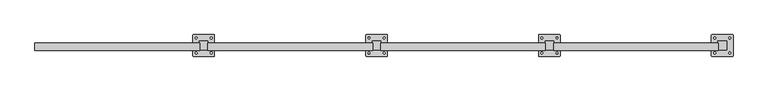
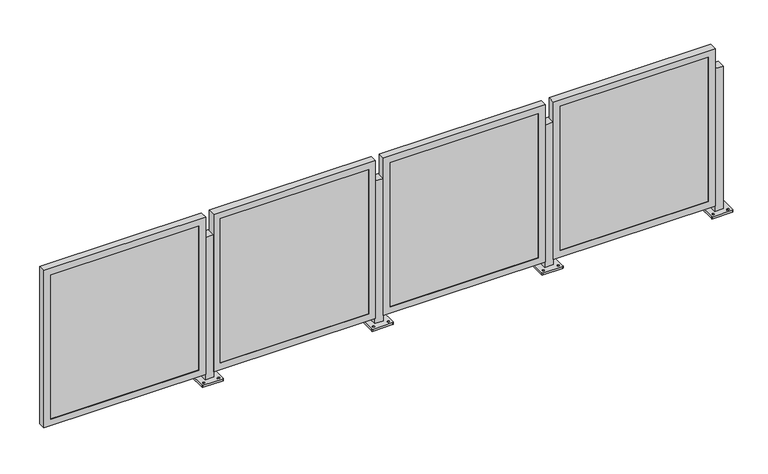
"""IFC4 building model written with IfcOpenShell, lengths in millimetres: railing geometry, Railing - Amico Architectural - Perforated Railing - Apex01."""

from ifc_helpers import new_model, si_unit, frame, origin, place, context, project, spatial, polyline, circle_curve, outline, extrude, faceted_brep, source, transform, mapped, element, save
from ifc_brep_helpers import plane_surface, cylinder_surface, revolved_surface, advanced_brep


def railing_47f15f1b(model_context):
    return source(origin(), model_context, "Body", "SolidModel", [
        advanced_brep(
        [(-18733.8818496, 7784.6872089, 914.4), (-18733.8818496, 7733.8872089, 914.4), (-18683.0818496, 7733.8872089, 914.4), (-18683.0818496, 7784.6872089, 914.4), (-18771.9818498, 7698.9622499, 0.0), (-18771.9818498, 7819.6121679, 0.0), (-18768.8068216, 7822.787196, 0.0), (-18648.1568776, 7822.787196, 0.0), (-18644.9818495, 7819.6121679, 0.0), (-18644.9818495, 7698.9622499, 0.0), (-18648.1568776, 7695.7872218, 0.0), (-18768.8068216, 7695.7872218, 0.0), (-18752.9318372, 7709.2809542, 0.0), (-18752.9318372, 7720.3934667, 0.0), (-18752.9318481, 7798.1809586, 0.0), (-18752.9318481, 7809.2934402, 0.0), (-18664.0318362, 7709.2809558, 0.0), (-18664.0318362, 7720.3934664, 0.0), (-18664.0318471, 7798.1809601, 0.0), (-18664.0318471, 7809.2934399, 0.0), (-18733.8818496, 7784.6872089, 12.7), (-18733.8818496, 7733.8872089, 12.7), (-18683.0818496, 7733.8872089, 12.7), (-18683.0818496, 7784.6872089, 12.7), (-18771.9818498, 7698.9622499, 12.7), (-18768.8068216, 7695.7872218, 12.7), (-18648.1568776, 7695.7872218, 12.7), (-18644.9818495, 7698.9622499, 12.7), (-18644.9818495, 7819.6121679, 12.7), (-18648.1568776, 7822.787196, 12.7), (-18768.8068216, 7822.787196, 12.7), (-18771.9818498, 7819.6121679, 12.7), (-18752.9318372, 7709.2809542, 12.7), (-18752.9318372, 7720.3934667, 12.7), (-18752.9318481, 7798.1809586, 12.7), (-18752.9318481, 7809.2934402, 12.7), (-18664.0318362, 7709.2809558, 12.7), (-18664.0318362, 7720.3934664, 12.7), (-18664.0318471, 7798.1809601, 12.7), (-18664.0318471, 7809.2934399, 12.7)],
        [
            (0, 1),
            (1, 2),
            (2, 3),
            (3, 0),
            (4, 5),
            (5, 6, circle_curve(frame((-18768.8068216, 7819.6121679, 0.0), z_axis=(0.0, 0.0, -1.0), x_axis=(0.0, 1.0, 0.0)), 3.1750282)),
            (6, 7),
            (7, 8, circle_curve(frame((-18648.1568776, 7819.6121679, 0.0), z_axis=(0.0, 0.0, -1.0), x_axis=(0.0, 1.0, 0.0)), 3.1750282)),
            (8, 9),
            (9, 10, circle_curve(frame((-18648.1568776, 7698.9622499, 0.0), z_axis=(0.0, 0.0, -1.0), x_axis=(0.0, 1.0, 0.0)), 3.1750282)),
            (10, 11),
            (11, 4, circle_curve(frame((-18768.8068216, 7698.9622499, 0.0), z_axis=(0.0, 0.0, -1.0), x_axis=(0.0, 1.0, 0.0)), 3.1750282)),
            (12, 13, circle_curve(frame((-18752.9318372, 7714.8372105, 0.0), z_axis=(0.0, 0.0, 1.0), x_axis=(0.0, 1.0, 0.0)), 5.5562562)),
            (13, 12, circle_curve(frame((-18752.9318372, 7714.8372105, 0.0), z_axis=(0.0, 0.0, 1.0), x_axis=(0.0, 1.0, 0.0)), 5.5562562)),
            (14, 15, circle_curve(frame((-18752.9318481, 7803.7371994, 0.0), z_axis=(0.0, 0.0, 1.0), x_axis=(0.0, 1.0, 0.0)), 5.5562408)),
            (15, 14, circle_curve(frame((-18752.9318481, 7803.7371994, 0.0), z_axis=(0.0, 0.0, 1.0), x_axis=(0.0, 1.0, 0.0)), 5.5562408)),
            (16, 17, circle_curve(frame((-18664.0318362, 7714.8372111, 0.0), z_axis=(0.0, 0.0, 1.0), x_axis=(0.0, 1.0, 0.0)), 5.5562553)),
            (17, 16, circle_curve(frame((-18664.0318362, 7714.8372111, 0.0), z_axis=(0.0, 0.0, 1.0), x_axis=(0.0, 1.0, 0.0)), 5.5562553)),
            (18, 19, circle_curve(frame((-18664.0318471, 7803.7372, 0.0), z_axis=(0.0, 0.0, 1.0), x_axis=(0.0, 1.0, 0.0)), 5.5562399)),
            (19, 18, circle_curve(frame((-18664.0318471, 7803.7372, 0.0), z_axis=(0.0, 0.0, 1.0), x_axis=(0.0, 1.0, 0.0)), 5.5562399)),
            (0, 20),
            (20, 21),
            (21, 1),
            (21, 22),
            (22, 2),
            (22, 23),
            (23, 3),
            (23, 20),
            (24, 25, circle_curve(frame((-18768.8068216, 7698.9622499, 12.7), z_axis=(0.0, 0.0, 1.0), x_axis=(0.0, 1.0, 0.0)), 3.1750282)),
            (25, 26),
            (26, 27, circle_curve(frame((-18648.1568776, 7698.9622499, 12.7), z_axis=(0.0, 0.0, 1.0), x_axis=(0.0, 1.0, 0.0)), 3.1750282)),
            (27, 28),
            (28, 29, circle_curve(frame((-18648.1568776, 7819.6121679, 12.7), z_axis=(0.0, 0.0, 1.0), x_axis=(0.0, 1.0, 0.0)), 3.1750282)),
            (29, 30),
            (30, 31, circle_curve(frame((-18768.8068216, 7819.6121679, 12.7), z_axis=(0.0, 0.0, 1.0), x_axis=(0.0, 1.0, 0.0)), 3.1750282)),
            (31, 24),
            (32, 33, circle_curve(frame((-18752.9318372, 7714.8372105, 12.7), z_axis=(0.0, 0.0, -1.0), x_axis=(0.0, 1.0, 0.0)), 5.5562562)),
            (33, 32, circle_curve(frame((-18752.9318372, 7714.8372105, 12.7), z_axis=(0.0, 0.0, -1.0), x_axis=(0.0, 1.0, 0.0)), 5.5562562)),
            (34, 35, circle_curve(frame((-18752.9318481, 7803.7371994, 12.7), z_axis=(0.0, 0.0, -1.0), x_axis=(0.0, 1.0, 0.0)), 5.5562408)),
            (35, 34, circle_curve(frame((-18752.9318481, 7803.7371994, 12.7), z_axis=(0.0, 0.0, -1.0), x_axis=(0.0, 1.0, 0.0)), 5.5562408)),
            (36, 37, circle_curve(frame((-18664.0318362, 7714.8372111, 12.7), z_axis=(0.0, 0.0, -1.0), x_axis=(0.0, 1.0, 0.0)), 5.5562553)),
            (37, 36, circle_curve(frame((-18664.0318362, 7714.8372111, 12.7), z_axis=(0.0, 0.0, -1.0), x_axis=(0.0, 1.0, 0.0)), 5.5562553)),
            (38, 39, circle_curve(frame((-18664.0318471, 7803.7372, 12.7), z_axis=(0.0, 0.0, -1.0), x_axis=(0.0, 1.0, 0.0)), 5.5562399)),
            (39, 38, circle_curve(frame((-18664.0318471, 7803.7372, 12.7), z_axis=(0.0, 0.0, -1.0), x_axis=(0.0, 1.0, 0.0)), 5.5562399)),
            (24, 4),
            (11, 25),
            (10, 26),
            (9, 27),
            (8, 28),
            (7, 29),
            (6, 30),
            (5, 31),
            (32, 12),
            (13, 33),
            (34, 14),
            (15, 35),
            (36, 16),
            (17, 37),
            (38, 18),
            (19, 39),
        ],
        [
            plane_surface(frame((-18733.8818496, 7733.8872089, 914.4), z_axis=(0.0, 0.0, 1.0), x_axis=(0.0, -1.0, 0.0))),
            plane_surface(frame((-18733.8818496, 7733.8872089, 0.0), z_axis=(0.0, 0.0, -1.0), x_axis=(0.0, 1.0, 0.0))),
            plane_surface(frame((-18733.8818496, 7784.6872089, 914.4), z_axis=(-1.0, 0.0, 0.0), x_axis=(0.0, 0.0, -1.0))),
            plane_surface(frame((-18733.8818496, 7733.8872089, 914.4), z_axis=(0.0, -1.0, 0.0), x_axis=(0.0, 0.0, -1.0))),
            plane_surface(frame((-18683.0818496, 7733.8872089, 914.4), z_axis=(1.0, 0.0, 0.0), x_axis=(0.0, 0.0, -1.0))),
            plane_surface(frame((-18683.0818496, 7784.6872089, 914.4), z_axis=(0.0, 1.0, 0.0), x_axis=(0.0, 0.0, -1.0))),
            plane_surface(frame((-18768.8068216, 7702.1372781, 12.7), z_axis=(0.0, 0.0, 1.0), x_axis=(-1.0, 0.0, 0.0))),
            cylinder_surface(frame((-18768.8068216, 7698.9622499, 0.0), z_axis=(0.0, 0.0, 1.0), x_axis=(0.0, 1.0, 0.0)), 3.1750282),
            plane_surface(frame((-18768.8068216, 7695.7872218, 12.7), z_axis=(1.1945386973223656e-12, -1.0, 0.0), x_axis=(0.0, 0.0, -1.0))),
            cylinder_surface(frame((-18648.1568776, 7698.9622499, 0.0), z_axis=(0.0, 0.0, 1.0), x_axis=(0.0, 1.0, 0.0)), 3.1750282),
            plane_surface(frame((-18644.9818495, 7698.9622499, 12.7), z_axis=(1.0, 0.0, 0.0), x_axis=(0.0, 0.0, -1.0))),
            cylinder_surface(frame((-18648.1568776, 7819.6121679, 0.0), z_axis=(0.0, 0.0, 1.0), x_axis=(0.0, 1.0, 0.0)), 3.1750282),
            plane_surface(frame((-18648.1568776, 7822.787196, 12.7), z_axis=(-1.1946088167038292e-12, 1.0, 0.0), x_axis=(0.0, 0.0, -1.0))),
            cylinder_surface(frame((-18768.8068216, 7819.6121679, 0.0), z_axis=(0.0, 0.0, 1.0), x_axis=(0.0, 1.0, 0.0)), 3.1750282),
            plane_surface(frame((-18771.9818498, 7819.6121679, 12.7), z_axis=(-1.0, 0.0, 0.0), x_axis=(0.0, 0.0, -1.0))),
            revolved_surface(polyline([(-18752.9318372, 7720.393466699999, 0.0), (-18752.9318372, 7720.393466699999, 12.7)]), (-18752.9318372, 7714.8372105, 0.0), (0.0, 0.0, -1.0)),
            revolved_surface(polyline([(-18752.9318481, 7809.293440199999, 0.0), (-18752.9318481, 7809.293440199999, 12.7)]), (-18752.9318481, 7803.7371994, 0.0), (0.0, 0.0, -1.0)),
            revolved_surface(polyline([(-18664.0318362, 7720.3934664, 0.0), (-18664.0318362, 7720.3934664, 12.7)]), (-18664.0318362, 7714.8372111, 0.0), (0.0, 0.0, -1.0)),
            revolved_surface(polyline([(-18664.0318471, 7809.2934399, 0.0), (-18664.0318471, 7809.2934399, 12.7)]), (-18664.0318471, 7803.7372, 0.0), (0.0, 0.0, -1.0)),
        ],
        [
            (0, [[1, 2, 3, 4]]),
            (1, [[5, 6, 7, 8, 9, 10, 11, 12], [13, 14], [15, 16], [17, 18], [19, 20]]),
            (2, [[-1, 21, 22, 23]]),
            (3, [[-2, -23, 24, 25]]),
            (4, [[-3, -25, 26, 27]]),
            (5, [[-4, -27, 28, -21]]),
            (6, [[29, 30, 31, 32, 33, 34, 35, 36], [-22, -28, -26, -24], [37, 38], [39, 40], [41, 42], [43, 44]]),
            (7, [[-29, 45, -12, 46]]),
            (8, [[-30, -46, -11, 47]]),
            (9, [[-31, -47, -10, 48]]),
            (10, [[-32, -48, -9, 49]]),
            (11, [[-33, -49, -8, 50]]),
            (12, [[-34, -50, -7, 51]]),
            (13, [[-35, -51, -6, 52]]),
            (14, [[-36, -52, -5, -45]]),
            (15, [[-37, 53, -14, 54]]),
            (15, [[-38, -54, -13, -53]]),
            (16, [[-39, 55, -16, 56]]),
            (16, [[-40, -56, -15, -55]]),
            (17, [[-41, 57, -18, 58]]),
            (17, [[-42, -58, -17, -57]]),
            (18, [[-43, 59, -20, 60]]),
            (18, [[-44, -60, -19, -59]]),
        ],
    ),
        faceted_brep([(-19700.286303, 7731.1440089, 47.625), (-18731.911303, 7731.1440089, 47.625), (-18731.911303, 7731.1440089, 1044.575), (-19700.286303, 7731.1440089, 1044.575), (-19659.011303, 7731.1440089, 1003.3), (-18773.186303, 7731.1440089, 1003.3), (-18773.186303, 7731.1440089, 88.9), (-19659.011303, 7731.1440089, 88.9), (-19659.011303, 7733.8872089, 1003.3), (-19659.011303, 7733.8872089, 88.9), (-19700.286303, 7775.0173054, 1044.575), (-19700.286303, 7775.0173054, 47.625), (-19697.111303, 7775.0173054, 1041.4), (-19697.111303, 7733.8872089, 1041.4), (-19697.111303, 7733.8872089, 50.8), (-19697.111303, 7775.0173054, 50.8), (-18773.186303, 7733.8872089, 88.9), (-18731.911303, 7775.0173054, 47.625), (-18735.086303, 7733.8872089, 50.8), (-18735.086303, 7775.0173054, 50.8), (-18773.186303, 7733.8872089, 1003.3), (-18731.911303, 7775.0173054, 1044.575), (-18735.086303, 7733.8872089, 1041.4), (-18735.086303, 7775.0173054, 1041.4)], [[[0, 1, 2, 3], [4, 5, 6, 7]], [[8, 4, 7, 9]], [[3, 10, 11, 0]], [[12, 13, 14, 15]], [[9, 7, 6, 16]], [[0, 11, 17, 1]], [[15, 14, 18, 19]], [[16, 6, 5, 20]], [[1, 17, 21, 2]], [[19, 18, 22, 23]], [[20, 5, 4, 8]], [[10, 21, 17, 11], [15, 19, 23, 12]], [[2, 21, 10, 3]], [[13, 22, 18, 14], [9, 16, 20, 8]], [[23, 22, 13, 12]]]),
        extrude(outline(polyline([(-19697.111303, 7743.4122089), (-18735.086303, 7743.4122089), (-18735.086303, 7733.8872089), (-19697.111303, 7733.8872089), (-19697.111303, 7743.4122089)])), frame((0.0, 0.0, 50.8), z_axis=(0.0, 0.0, 1.0), x_axis=(1.0, 0.0, 0.0)), (0.0, 0.0, 1.0), 990.6),
        advanced_brep(
        [(-19749.8818496, 7784.6872089, 914.4), (-19749.8818496, 7733.8872089, 914.4), (-19699.0818496, 7733.8872089, 914.4), (-19699.0818496, 7784.6872089, 914.4), (-19787.9818498, 7698.9622499, 0.0), (-19787.9818498, 7819.6121679, 0.0), (-19784.8068216, 7822.787196, 0.0), (-19664.1568776, 7822.787196, 0.0), (-19660.9818495, 7819.6121679, 0.0), (-19660.9818495, 7698.9622499, 0.0), (-19664.1568776, 7695.7872218, 0.0), (-19784.8068216, 7695.7872218, 0.0), (-19768.9318372, 7709.2809542, 0.0), (-19768.9318372, 7720.3934667, 0.0), (-19768.9318481, 7798.1809586, 0.0), (-19768.9318481, 7809.2934402, 0.0), (-19680.0318362, 7709.2809558, 0.0), (-19680.0318362, 7720.3934664, 0.0), (-19680.0318471, 7798.1809601, 0.0), (-19680.0318471, 7809.2934399, 0.0), (-19749.8818496, 7784.6872089, 12.7), (-19749.8818496, 7733.8872089, 12.7), (-19699.0818496, 7733.8872089, 12.7), (-19699.0818496, 7784.6872089, 12.7), (-19787.9818498, 7698.9622499, 12.7), (-19784.8068216, 7695.7872218, 12.7), (-19664.1568776, 7695.7872218, 12.7), (-19660.9818495, 7698.9622499, 12.7), (-19660.9818495, 7819.6121679, 12.7), (-19664.1568776, 7822.787196, 12.7), (-19784.8068216, 7822.787196, 12.7), (-19787.9818498, 7819.6121679, 12.7), (-19768.9318372, 7709.2809542, 12.7), (-19768.9318372, 7720.3934667, 12.7), (-19768.9318481, 7798.1809586, 12.7), (-19768.9318481, 7809.2934402, 12.7), (-19680.0318362, 7709.2809558, 12.7), (-19680.0318362, 7720.3934664, 12.7), (-19680.0318471, 7798.1809601, 12.7), (-19680.0318471, 7809.2934399, 12.7)],
        [
            (0, 1),
            (1, 2),
            (2, 3),
            (3, 0),
            (4, 5),
            (5, 6, circle_curve(frame((-19784.8068216, 7819.6121679, 0.0), z_axis=(0.0, 0.0, -1.0), x_axis=(0.0, 1.0, 0.0)), 3.1750282)),
            (6, 7),
            (7, 8, circle_curve(frame((-19664.1568776, 7819.6121679, 0.0), z_axis=(0.0, 0.0, -1.0), x_axis=(0.0, 1.0, 0.0)), 3.1750282)),
            (8, 9),
            (9, 10, circle_curve(frame((-19664.1568776, 7698.9622499, 0.0), z_axis=(0.0, 0.0, -1.0), x_axis=(0.0, 1.0, 0.0)), 3.1750282)),
            (10, 11),
            (11, 4, circle_curve(frame((-19784.8068216, 7698.9622499, 0.0), z_axis=(0.0, 0.0, -1.0), x_axis=(0.0, 1.0, 0.0)), 3.1750282)),
            (12, 13, circle_curve(frame((-19768.9318372, 7714.8372105, 0.0), z_axis=(0.0, 0.0, 1.0), x_axis=(0.0, 1.0, 0.0)), 5.5562562)),
            (13, 12, circle_curve(frame((-19768.9318372, 7714.8372105, 0.0), z_axis=(0.0, 0.0, 1.0), x_axis=(0.0, 1.0, 0.0)), 5.5562562)),
            (14, 15, circle_curve(frame((-19768.9318481, 7803.7371994, 0.0), z_axis=(0.0, 0.0, 1.0), x_axis=(0.0, 1.0, 0.0)), 5.5562408)),
            (15, 14, circle_curve(frame((-19768.9318481, 7803.7371994, 0.0), z_axis=(0.0, 0.0, 1.0), x_axis=(0.0, 1.0, 0.0)), 5.5562408)),
            (16, 17, circle_curve(frame((-19680.0318362, 7714.8372111, 0.0), z_axis=(0.0, 0.0, 1.0), x_axis=(0.0, 1.0, 0.0)), 5.5562553)),
            (17, 16, circle_curve(frame((-19680.0318362, 7714.8372111, 0.0), z_axis=(0.0, 0.0, 1.0), x_axis=(0.0, 1.0, 0.0)), 5.5562553)),
            (18, 19, circle_curve(frame((-19680.0318471, 7803.7372, 0.0), z_axis=(0.0, 0.0, 1.0), x_axis=(0.0, 1.0, 0.0)), 5.5562399)),
            (19, 18, circle_curve(frame((-19680.0318471, 7803.7372, 0.0), z_axis=(0.0, 0.0, 1.0), x_axis=(0.0, 1.0, 0.0)), 5.5562399)),
            (0, 20),
            (20, 21),
            (21, 1),
            (21, 22),
            (22, 2),
            (22, 23),
            (23, 3),
            (23, 20),
            (24, 25, circle_curve(frame((-19784.8068216, 7698.9622499, 12.7), z_axis=(0.0, 0.0, 1.0), x_axis=(0.0, 1.0, 0.0)), 3.1750282)),
            (25, 26),
            (26, 27, circle_curve(frame((-19664.1568776, 7698.9622499, 12.7), z_axis=(0.0, 0.0, 1.0), x_axis=(0.0, 1.0, 0.0)), 3.1750282)),
            (27, 28),
            (28, 29, circle_curve(frame((-19664.1568776, 7819.6121679, 12.7), z_axis=(0.0, 0.0, 1.0), x_axis=(0.0, 1.0, 0.0)), 3.1750282)),
            (29, 30),
            (30, 31, circle_curve(frame((-19784.8068216, 7819.6121679, 12.7), z_axis=(0.0, 0.0, 1.0), x_axis=(0.0, 1.0, 0.0)), 3.1750282)),
            (31, 24),
            (32, 33, circle_curve(frame((-19768.9318372, 7714.8372105, 12.7), z_axis=(0.0, 0.0, -1.0), x_axis=(0.0, 1.0, 0.0)), 5.5562562)),
            (33, 32, circle_curve(frame((-19768.9318372, 7714.8372105, 12.7), z_axis=(0.0, 0.0, -1.0), x_axis=(0.0, 1.0, 0.0)), 5.5562562)),
            (34, 35, circle_curve(frame((-19768.9318481, 7803.7371994, 12.7), z_axis=(0.0, 0.0, -1.0), x_axis=(0.0, 1.0, 0.0)), 5.5562408)),
            (35, 34, circle_curve(frame((-19768.9318481, 7803.7371994, 12.7), z_axis=(0.0, 0.0, -1.0), x_axis=(0.0, 1.0, 0.0)), 5.5562408)),
            (36, 37, circle_curve(frame((-19680.0318362, 7714.8372111, 12.7), z_axis=(0.0, 0.0, -1.0), x_axis=(0.0, 1.0, 0.0)), 5.5562553)),
            (37, 36, circle_curve(frame((-19680.0318362, 7714.8372111, 12.7), z_axis=(0.0, 0.0, -1.0), x_axis=(0.0, 1.0, 0.0)), 5.5562553)),
            (38, 39, circle_curve(frame((-19680.0318471, 7803.7372, 12.7), z_axis=(0.0, 0.0, -1.0), x_axis=(0.0, 1.0, 0.0)), 5.5562399)),
            (39, 38, circle_curve(frame((-19680.0318471, 7803.7372, 12.7), z_axis=(0.0, 0.0, -1.0), x_axis=(0.0, 1.0, 0.0)), 5.5562399)),
            (24, 4),
            (11, 25),
            (10, 26),
            (9, 27),
            (8, 28),
            (7, 29),
            (6, 30),
            (5, 31),
            (32, 12),
            (13, 33),
            (34, 14),
            (15, 35),
            (36, 16),
            (17, 37),
            (38, 18),
            (19, 39),
        ],
        [
            plane_surface(frame((-19749.8818496, 7733.8872089, 914.4), z_axis=(0.0, 0.0, 1.0), x_axis=(0.0, -1.0, 0.0))),
            plane_surface(frame((-19749.8818496, 7733.8872089, 0.0), z_axis=(0.0, 0.0, -1.0), x_axis=(0.0, 1.0, 0.0))),
            plane_surface(frame((-19749.8818496, 7784.6872089, 914.4), z_axis=(-1.0, 0.0, 0.0), x_axis=(0.0, 0.0, -1.0))),
            plane_surface(frame((-19749.8818496, 7733.8872089, 914.4), z_axis=(0.0, -1.0, 0.0), x_axis=(0.0, 0.0, -1.0))),
            plane_surface(frame((-19699.0818496, 7733.8872089, 914.4), z_axis=(1.0, 0.0, 0.0), x_axis=(0.0, 0.0, -1.0))),
            plane_surface(frame((-19699.0818496, 7784.6872089, 914.4), z_axis=(0.0, 1.0, 0.0), x_axis=(0.0, 0.0, -1.0))),
            plane_surface(frame((-19784.8068216, 7702.1372781, 12.7), z_axis=(0.0, 0.0, 1.0), x_axis=(-1.0, 0.0, 0.0))),
            cylinder_surface(frame((-19784.8068216, 7698.9622499, 0.0), z_axis=(0.0, 0.0, 1.0), x_axis=(0.0, 1.0, 0.0)), 3.1750282),
            plane_surface(frame((-19784.8068216, 7695.7872218, 12.7), z_axis=(1.1945386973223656e-12, -1.0, 0.0), x_axis=(0.0, 0.0, -1.0))),
            cylinder_surface(frame((-19664.1568776, 7698.9622499, 0.0), z_axis=(0.0, 0.0, 1.0), x_axis=(0.0, 1.0, 0.0)), 3.1750282),
            plane_surface(frame((-19660.9818495, 7698.9622499, 12.7), z_axis=(1.0, 0.0, 0.0), x_axis=(0.0, 0.0, -1.0))),
            cylinder_surface(frame((-19664.1568776, 7819.6121679, 0.0), z_axis=(0.0, 0.0, 1.0), x_axis=(0.0, 1.0, 0.0)), 3.1750282),
            plane_surface(frame((-19664.1568776, 7822.787196, 12.7), z_axis=(-1.1946088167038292e-12, 1.0, 0.0), x_axis=(0.0, 0.0, -1.0))),
            cylinder_surface(frame((-19784.8068216, 7819.6121679, 0.0), z_axis=(0.0, 0.0, 1.0), x_axis=(0.0, 1.0, 0.0)), 3.1750282),
            plane_surface(frame((-19787.9818498, 7819.6121679, 12.7), z_axis=(-1.0, 0.0, 0.0), x_axis=(0.0, 0.0, -1.0))),
            revolved_surface(polyline([(-19768.9318372, 7720.393466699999, 0.0), (-19768.9318372, 7720.393466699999, 12.7)]), (-19768.9318372, 7714.8372105, 0.0), (0.0, 0.0, -1.0)),
            revolved_surface(polyline([(-19768.9318481, 7809.293440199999, 0.0), (-19768.9318481, 7809.293440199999, 12.7)]), (-19768.9318481, 7803.7371994, 0.0), (0.0, 0.0, -1.0)),
            revolved_surface(polyline([(-19680.0318362, 7720.3934664, 0.0), (-19680.0318362, 7720.3934664, 12.7)]), (-19680.0318362, 7714.8372111, 0.0), (0.0, 0.0, -1.0)),
            revolved_surface(polyline([(-19680.0318471, 7809.2934399, 0.0), (-19680.0318471, 7809.2934399, 12.7)]), (-19680.0318471, 7803.7372, 0.0), (0.0, 0.0, -1.0)),
        ],
        [
            (0, [[1, 2, 3, 4]]),
            (1, [[5, 6, 7, 8, 9, 10, 11, 12], [13, 14], [15, 16], [17, 18], [19, 20]]),
            (2, [[-1, 21, 22, 23]]),
            (3, [[-2, -23, 24, 25]]),
            (4, [[-3, -25, 26, 27]]),
            (5, [[-4, -27, 28, -21]]),
            (6, [[29, 30, 31, 32, 33, 34, 35, 36], [-22, -28, -26, -24], [37, 38], [39, 40], [41, 42], [43, 44]]),
            (7, [[-29, 45, -12, 46]]),
            (8, [[-30, -46, -11, 47]]),
            (9, [[-31, -47, -10, 48]]),
            (10, [[-32, -48, -9, 49]]),
            (11, [[-33, -49, -8, 50]]),
            (12, [[-34, -50, -7, 51]]),
            (13, [[-35, -51, -6, 52]]),
            (14, [[-36, -52, -5, -45]]),
            (15, [[-37, 53, -14, 54]]),
            (15, [[-38, -54, -13, -53]]),
            (16, [[-39, 55, -16, 56]]),
            (16, [[-40, -56, -15, -55]]),
            (17, [[-41, 57, -18, 58]]),
            (17, [[-42, -58, -17, -57]]),
            (18, [[-43, 59, -20, 60]]),
            (18, [[-44, -60, -19, -59]]),
        ],
    ),
        faceted_brep([(-20716.286303, 7731.1440089, 47.625), (-19747.911303, 7731.1440089, 47.625), (-19747.911303, 7731.1440089, 1044.575), (-20716.286303, 7731.1440089, 1044.575), (-20675.011303, 7731.1440089, 1003.3), (-19789.186303, 7731.1440089, 1003.3), (-19789.186303, 7731.1440089, 88.9), (-20675.011303, 7731.1440089, 88.9), (-20675.011303, 7733.8872089, 1003.3), (-20675.011303, 7733.8872089, 88.9), (-20716.286303, 7775.0173054, 1044.575), (-20716.286303, 7775.0173054, 47.625), (-20713.111303, 7775.0173054, 1041.4), (-20713.111303, 7733.8872089, 1041.4), (-20713.111303, 7733.8872089, 50.8), (-20713.111303, 7775.0173054, 50.8), (-19789.186303, 7733.8872089, 88.9), (-19747.911303, 7775.0173054, 47.625), (-19751.086303, 7733.8872089, 50.8), (-19751.086303, 7775.0173054, 50.8), (-19789.186303, 7733.8872089, 1003.3), (-19747.911303, 7775.0173054, 1044.575), (-19751.086303, 7733.8872089, 1041.4), (-19751.086303, 7775.0173054, 1041.4)], [[[0, 1, 2, 3], [4, 5, 6, 7]], [[8, 4, 7, 9]], [[3, 10, 11, 0]], [[12, 13, 14, 15]], [[9, 7, 6, 16]], [[0, 11, 17, 1]], [[15, 14, 18, 19]], [[16, 6, 5, 20]], [[1, 17, 21, 2]], [[19, 18, 22, 23]], [[20, 5, 4, 8]], [[10, 21, 17, 11], [15, 19, 23, 12]], [[2, 21, 10, 3]], [[13, 22, 18, 14], [9, 16, 20, 8]], [[23, 22, 13, 12]]]),
        extrude(outline(polyline([(-20713.111303, 7743.4122089), (-19751.086303, 7743.4122089), (-19751.086303, 7733.8872089), (-20713.111303, 7733.8872089), (-20713.111303, 7743.4122089)])), frame((0.0, 0.0, 50.8), z_axis=(0.0, 0.0, 1.0), x_axis=(1.0, 0.0, 0.0)), (0.0, 0.0, 1.0), 990.6),
        advanced_brep(
        [(-20765.8818496, 7784.6872089, 914.4), (-20765.8818496, 7733.8872089, 914.4), (-20715.0818496, 7733.8872089, 914.4), (-20715.0818496, 7784.6872089, 914.4), (-20803.9818498, 7698.9622499, 0.0), (-20803.9818498, 7819.6121679, 0.0), (-20800.8068216, 7822.787196, 0.0), (-20680.1568776, 7822.787196, 0.0), (-20676.9818495, 7819.6121679, 0.0), (-20676.9818495, 7698.9622499, 0.0), (-20680.1568776, 7695.7872218, 0.0), (-20800.8068216, 7695.7872218, 0.0), (-20784.9318372, 7709.2809542, 0.0), (-20784.9318372, 7720.3934667, 0.0), (-20784.9318481, 7798.1809586, 0.0), (-20784.9318481, 7809.2934402, 0.0), (-20696.0318362, 7709.2809558, 0.0), (-20696.0318362, 7720.3934664, 0.0), (-20696.0318471, 7798.1809601, 0.0), (-20696.0318471, 7809.2934399, 0.0), (-20765.8818496, 7784.6872089, 12.7), (-20765.8818496, 7733.8872089, 12.7), (-20715.0818496, 7733.8872089, 12.7), (-20715.0818496, 7784.6872089, 12.7), (-20803.9818498, 7698.9622499, 12.7), (-20800.8068216, 7695.7872218, 12.7), (-20680.1568776, 7695.7872218, 12.7), (-20676.9818495, 7698.9622499, 12.7), (-20676.9818495, 7819.6121679, 12.7), (-20680.1568776, 7822.787196, 12.7), (-20800.8068216, 7822.787196, 12.7), (-20803.9818498, 7819.6121679, 12.7), (-20784.9318372, 7709.2809542, 12.7), (-20784.9318372, 7720.3934667, 12.7), (-20784.9318481, 7798.1809586, 12.7), (-20784.9318481, 7809.2934402, 12.7), (-20696.0318362, 7709.2809558, 12.7), (-20696.0318362, 7720.3934664, 12.7), (-20696.0318471, 7798.1809601, 12.7), (-20696.0318471, 7809.2934399, 12.7)],
        [
            (0, 1),
            (1, 2),
            (2, 3),
            (3, 0),
            (4, 5),
            (5, 6, circle_curve(frame((-20800.8068216, 7819.6121679, 0.0), z_axis=(0.0, 0.0, -1.0), x_axis=(0.0, 1.0, 0.0)), 3.1750282)),
            (6, 7),
            (7, 8, circle_curve(frame((-20680.1568776, 7819.6121679, 0.0), z_axis=(0.0, 0.0, -1.0), x_axis=(0.0, 1.0, 0.0)), 3.1750282)),
            (8, 9),
            (9, 10, circle_curve(frame((-20680.1568776, 7698.9622499, 0.0), z_axis=(0.0, 0.0, -1.0), x_axis=(0.0, 1.0, 0.0)), 3.1750282)),
            (10, 11),
            (11, 4, circle_curve(frame((-20800.8068216, 7698.9622499, 0.0), z_axis=(0.0, 0.0, -1.0), x_axis=(0.0, 1.0, 0.0)), 3.1750282)),
            (12, 13, circle_curve(frame((-20784.9318372, 7714.8372105, 0.0), z_axis=(0.0, 0.0, 1.0), x_axis=(0.0, 1.0, 0.0)), 5.5562562)),
            (13, 12, circle_curve(frame((-20784.9318372, 7714.8372105, 0.0), z_axis=(0.0, 0.0, 1.0), x_axis=(0.0, 1.0, 0.0)), 5.5562562)),
            (14, 15, circle_curve(frame((-20784.9318481, 7803.7371994, 0.0), z_axis=(0.0, 0.0, 1.0), x_axis=(0.0, 1.0, 0.0)), 5.5562408)),
            (15, 14, circle_curve(frame((-20784.9318481, 7803.7371994, 0.0), z_axis=(0.0, 0.0, 1.0), x_axis=(0.0, 1.0, 0.0)), 5.5562408)),
            (16, 17, circle_curve(frame((-20696.0318362, 7714.8372111, 0.0), z_axis=(0.0, 0.0, 1.0), x_axis=(0.0, 1.0, 0.0)), 5.5562553)),
            (17, 16, circle_curve(frame((-20696.0318362, 7714.8372111, 0.0), z_axis=(0.0, 0.0, 1.0), x_axis=(0.0, 1.0, 0.0)), 5.5562553)),
            (18, 19, circle_curve(frame((-20696.0318471, 7803.7372, 0.0), z_axis=(0.0, 0.0, 1.0), x_axis=(0.0, 1.0, 0.0)), 5.5562399)),
            (19, 18, circle_curve(frame((-20696.0318471, 7803.7372, 0.0), z_axis=(0.0, 0.0, 1.0), x_axis=(0.0, 1.0, 0.0)), 5.5562399)),
            (0, 20),
            (20, 21),
            (21, 1),
            (21, 22),
            (22, 2),
            (22, 23),
            (23, 3),
            (23, 20),
            (24, 25, circle_curve(frame((-20800.8068216, 7698.9622499, 12.7), z_axis=(0.0, 0.0, 1.0), x_axis=(0.0, 1.0, 0.0)), 3.1750282)),
            (25, 26),
            (26, 27, circle_curve(frame((-20680.1568776, 7698.9622499, 12.7), z_axis=(0.0, 0.0, 1.0), x_axis=(0.0, 1.0, 0.0)), 3.1750282)),
            (27, 28),
            (28, 29, circle_curve(frame((-20680.1568776, 7819.6121679, 12.7), z_axis=(0.0, 0.0, 1.0), x_axis=(0.0, 1.0, 0.0)), 3.1750282)),
            (29, 30),
            (30, 31, circle_curve(frame((-20800.8068216, 7819.6121679, 12.7), z_axis=(0.0, 0.0, 1.0), x_axis=(0.0, 1.0, 0.0)), 3.1750282)),
            (31, 24),
            (32, 33, circle_curve(frame((-20784.9318372, 7714.8372105, 12.7), z_axis=(0.0, 0.0, -1.0), x_axis=(0.0, 1.0, 0.0)), 5.5562562)),
            (33, 32, circle_curve(frame((-20784.9318372, 7714.8372105, 12.7), z_axis=(0.0, 0.0, -1.0), x_axis=(0.0, 1.0, 0.0)), 5.5562562)),
            (34, 35, circle_curve(frame((-20784.9318481, 7803.7371994, 12.7), z_axis=(0.0, 0.0, -1.0), x_axis=(0.0, 1.0, 0.0)), 5.5562408)),
            (35, 34, circle_curve(frame((-20784.9318481, 7803.7371994, 12.7), z_axis=(0.0, 0.0, -1.0), x_axis=(0.0, 1.0, 0.0)), 5.5562408)),
            (36, 37, circle_curve(frame((-20696.0318362, 7714.8372111, 12.7), z_axis=(0.0, 0.0, -1.0), x_axis=(0.0, 1.0, 0.0)), 5.5562553)),
            (37, 36, circle_curve(frame((-20696.0318362, 7714.8372111, 12.7), z_axis=(0.0, 0.0, -1.0), x_axis=(0.0, 1.0, 0.0)), 5.5562553)),
            (38, 39, circle_curve(frame((-20696.0318471, 7803.7372, 12.7), z_axis=(0.0, 0.0, -1.0), x_axis=(0.0, 1.0, 0.0)), 5.5562399)),
            (39, 38, circle_curve(frame((-20696.0318471, 7803.7372, 12.7), z_axis=(0.0, 0.0, -1.0), x_axis=(0.0, 1.0, 0.0)), 5.5562399)),
            (24, 4),
            (11, 25),
            (10, 26),
            (9, 27),
            (8, 28),
            (7, 29),
            (6, 30),
            (5, 31),
            (32, 12),
            (13, 33),
            (34, 14),
            (15, 35),
            (36, 16),
            (17, 37),
            (38, 18),
            (19, 39),
        ],
        [
            plane_surface(frame((-20765.8818496, 7733.8872089, 914.4), z_axis=(0.0, 0.0, 1.0), x_axis=(0.0, -1.0, 0.0))),
            plane_surface(frame((-20765.8818496, 7733.8872089, 0.0), z_axis=(0.0, 0.0, -1.0), x_axis=(0.0, 1.0, 0.0))),
            plane_surface(frame((-20765.8818496, 7784.6872089, 914.4), z_axis=(-1.0, 0.0, 0.0), x_axis=(0.0, 0.0, -1.0))),
            plane_surface(frame((-20765.8818496, 7733.8872089, 914.4), z_axis=(0.0, -1.0, 0.0), x_axis=(0.0, 0.0, -1.0))),
            plane_surface(frame((-20715.0818496, 7733.8872089, 914.4), z_axis=(1.0, 0.0, 0.0), x_axis=(0.0, 0.0, -1.0))),
            plane_surface(frame((-20715.0818496, 7784.6872089, 914.4), z_axis=(0.0, 1.0, 0.0), x_axis=(0.0, 0.0, -1.0))),
            plane_surface(frame((-20800.8068216, 7702.1372781, 12.7), z_axis=(0.0, 0.0, 1.0), x_axis=(-1.0, 0.0, 0.0))),
            cylinder_surface(frame((-20800.8068216, 7698.9622499, 0.0), z_axis=(0.0, 0.0, 1.0), x_axis=(0.0, 1.0, 0.0)), 3.1750282),
            plane_surface(frame((-20800.8068216, 7695.7872218, 12.7), z_axis=(1.1945386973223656e-12, -1.0, 0.0), x_axis=(0.0, 0.0, -1.0))),
            cylinder_surface(frame((-20680.1568776, 7698.9622499, 0.0), z_axis=(0.0, 0.0, 1.0), x_axis=(0.0, 1.0, 0.0)), 3.1750282),
            plane_surface(frame((-20676.9818495, 7698.9622499, 12.7), z_axis=(1.0, 0.0, 0.0), x_axis=(0.0, 0.0, -1.0))),
            cylinder_surface(frame((-20680.1568776, 7819.6121679, 0.0), z_axis=(0.0, 0.0, 1.0), x_axis=(0.0, 1.0, 0.0)), 3.1750282),
            plane_surface(frame((-20680.1568776, 7822.787196, 12.7), z_axis=(-1.1946088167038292e-12, 1.0, 0.0), x_axis=(0.0, 0.0, -1.0))),
            cylinder_surface(frame((-20800.8068216, 7819.6121679, 0.0), z_axis=(0.0, 0.0, 1.0), x_axis=(0.0, 1.0, 0.0)), 3.1750282),
            plane_surface(frame((-20803.9818498, 7819.6121679, 12.7), z_axis=(-1.0, 0.0, 0.0), x_axis=(0.0, 0.0, -1.0))),
            revolved_surface(polyline([(-20784.9318372, 7720.393466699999, 0.0), (-20784.9318372, 7720.393466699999, 12.7)]), (-20784.9318372, 7714.8372105, 0.0), (0.0, 0.0, -1.0)),
            revolved_surface(polyline([(-20784.9318481, 7809.293440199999, 0.0), (-20784.9318481, 7809.293440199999, 12.7)]), (-20784.9318481, 7803.7371994, 0.0), (0.0, 0.0, -1.0)),
            revolved_surface(polyline([(-20696.0318362, 7720.3934664, 0.0), (-20696.0318362, 7720.3934664, 12.7)]), (-20696.0318362, 7714.8372111, 0.0), (0.0, 0.0, -1.0)),
            revolved_surface(polyline([(-20696.0318471, 7809.2934399, 0.0), (-20696.0318471, 7809.2934399, 12.7)]), (-20696.0318471, 7803.7372, 0.0), (0.0, 0.0, -1.0)),
        ],
        [
            (0, [[1, 2, 3, 4]]),
            (1, [[5, 6, 7, 8, 9, 10, 11, 12], [13, 14], [15, 16], [17, 18], [19, 20]]),
            (2, [[-1, 21, 22, 23]]),
            (3, [[-2, -23, 24, 25]]),
            (4, [[-3, -25, 26, 27]]),
            (5, [[-4, -27, 28, -21]]),
            (6, [[29, 30, 31, 32, 33, 34, 35, 36], [-22, -28, -26, -24], [37, 38], [39, 40], [41, 42], [43, 44]]),
            (7, [[-29, 45, -12, 46]]),
            (8, [[-30, -46, -11, 47]]),
            (9, [[-31, -47, -10, 48]]),
            (10, [[-32, -48, -9, 49]]),
            (11, [[-33, -49, -8, 50]]),
            (12, [[-34, -50, -7, 51]]),
            (13, [[-35, -51, -6, 52]]),
            (14, [[-36, -52, -5, -45]]),
            (15, [[-37, 53, -14, 54]]),
            (15, [[-38, -54, -13, -53]]),
            (16, [[-39, 55, -16, 56]]),
            (16, [[-40, -56, -15, -55]]),
            (17, [[-41, 57, -18, 58]]),
            (17, [[-42, -58, -17, -57]]),
            (18, [[-43, 59, -20, 60]]),
            (18, [[-44, -60, -19, -59]]),
        ],
    ),
        faceted_brep([(-21732.286303, 7731.1440089, 47.625), (-20763.911303, 7731.1440089, 47.625), (-20763.911303, 7731.1440089, 1044.575), (-21732.286303, 7731.1440089, 1044.575), (-21691.011303, 7731.1440089, 1003.3), (-20805.186303, 7731.1440089, 1003.3), (-20805.186303, 7731.1440089, 88.9), (-21691.011303, 7731.1440089, 88.9), (-21691.011303, 7733.8872089, 1003.3), (-21691.011303, 7733.8872089, 88.9), (-21732.286303, 7775.0173054, 1044.575), (-21732.286303, 7775.0173054, 47.625), (-21729.111303, 7775.0173054, 1041.4), (-21729.111303, 7733.8872089, 1041.4), (-21729.111303, 7733.8872089, 50.8), (-21729.111303, 7775.0173054, 50.8), (-20805.186303, 7733.8872089, 88.9), (-20763.911303, 7775.0173054, 47.625), (-20767.086303, 7733.8872089, 50.8), (-20767.086303, 7775.0173054, 50.8), (-20805.186303, 7733.8872089, 1003.3), (-20763.911303, 7775.0173054, 1044.575), (-20767.086303, 7733.8872089, 1041.4), (-20767.086303, 7775.0173054, 1041.4)], [[[0, 1, 2, 3], [4, 5, 6, 7]], [[8, 4, 7, 9]], [[3, 10, 11, 0]], [[12, 13, 14, 15]], [[9, 7, 6, 16]], [[0, 11, 17, 1]], [[15, 14, 18, 19]], [[16, 6, 5, 20]], [[1, 17, 21, 2]], [[19, 18, 22, 23]], [[20, 5, 4, 8]], [[10, 21, 17, 11], [15, 19, 23, 12]], [[2, 21, 10, 3]], [[13, 22, 18, 14], [9, 16, 20, 8]], [[23, 22, 13, 12]]]),
        extrude(outline(polyline([(-21729.111303, 7743.4122089), (-20767.086303, 7743.4122089), (-20767.086303, 7733.8872089), (-21729.111303, 7733.8872089), (-21729.111303, 7743.4122089)])), frame((0.0, 0.0, 50.8), z_axis=(0.0, 0.0, 1.0), x_axis=(1.0, 0.0, 0.0)), (0.0, 0.0, 1.0), 990.6),
        advanced_brep(
        [(-21781.8818496, 7784.6872089, 914.4), (-21781.8818496, 7733.8872089, 914.4), (-21731.0818496, 7733.8872089, 914.4), (-21731.0818496, 7784.6872089, 914.4), (-21819.9818498, 7698.9622499, 0.0), (-21819.9818498, 7819.6121679, 0.0), (-21816.8068216, 7822.787196, 0.0), (-21696.1568776, 7822.787196, 0.0), (-21692.9818495, 7819.6121679, 0.0), (-21692.9818495, 7698.9622499, 0.0), (-21696.1568776, 7695.7872218, 0.0), (-21816.8068216, 7695.7872218, 0.0), (-21800.9318372, 7709.2809542, 0.0), (-21800.9318372, 7720.3934667, 0.0), (-21800.9318481, 7798.1809586, 0.0), (-21800.9318481, 7809.2934402, 0.0), (-21712.0318362, 7709.2809558, 0.0), (-21712.0318362, 7720.3934664, 0.0), (-21712.0318471, 7798.1809601, 0.0), (-21712.0318471, 7809.2934399, 0.0), (-21781.8818496, 7784.6872089, 12.7), (-21781.8818496, 7733.8872089, 12.7), (-21731.0818496, 7733.8872089, 12.7), (-21731.0818496, 7784.6872089, 12.7), (-21819.9818498, 7698.9622499, 12.7), (-21816.8068216, 7695.7872218, 12.7), (-21696.1568776, 7695.7872218, 12.7), (-21692.9818495, 7698.9622499, 12.7), (-21692.9818495, 7819.6121679, 12.7), (-21696.1568776, 7822.787196, 12.7), (-21816.8068216, 7822.787196, 12.7), (-21819.9818498, 7819.6121679, 12.7), (-21800.9318372, 7709.2809542, 12.7), (-21800.9318372, 7720.3934667, 12.7), (-21800.9318481, 7798.1809586, 12.7), (-21800.9318481, 7809.2934402, 12.7), (-21712.0318362, 7709.2809558, 12.7), (-21712.0318362, 7720.3934664, 12.7), (-21712.0318471, 7798.1809601, 12.7), (-21712.0318471, 7809.2934399, 12.7)],
        [
            (0, 1),
            (1, 2),
            (2, 3),
            (3, 0),
            (4, 5),
            (5, 6, circle_curve(frame((-21816.8068216, 7819.6121679, 0.0), z_axis=(0.0, 0.0, -1.0), x_axis=(0.0, 1.0, 0.0)), 3.1750282)),
            (6, 7),
            (7, 8, circle_curve(frame((-21696.1568776, 7819.6121679, 0.0), z_axis=(0.0, 0.0, -1.0), x_axis=(0.0, 1.0, 0.0)), 3.1750282)),
            (8, 9),
            (9, 10, circle_curve(frame((-21696.1568776, 7698.9622499, 0.0), z_axis=(0.0, 0.0, -1.0), x_axis=(0.0, 1.0, 0.0)), 3.1750282)),
            (10, 11),
            (11, 4, circle_curve(frame((-21816.8068216, 7698.9622499, 0.0), z_axis=(0.0, 0.0, -1.0), x_axis=(0.0, 1.0, 0.0)), 3.1750282)),
            (12, 13, circle_curve(frame((-21800.9318372, 7714.8372105, 0.0), z_axis=(0.0, 0.0, 1.0), x_axis=(0.0, 1.0, 0.0)), 5.5562562)),
            (13, 12, circle_curve(frame((-21800.9318372, 7714.8372105, 0.0), z_axis=(0.0, 0.0, 1.0), x_axis=(0.0, 1.0, 0.0)), 5.5562562)),
            (14, 15, circle_curve(frame((-21800.9318481, 7803.7371994, 0.0), z_axis=(0.0, 0.0, 1.0), x_axis=(0.0, 1.0, 0.0)), 5.5562408)),
            (15, 14, circle_curve(frame((-21800.9318481, 7803.7371994, 0.0), z_axis=(0.0, 0.0, 1.0), x_axis=(0.0, 1.0, 0.0)), 5.5562408)),
            (16, 17, circle_curve(frame((-21712.0318362, 7714.8372111, 0.0), z_axis=(0.0, 0.0, 1.0), x_axis=(0.0, 1.0, 0.0)), 5.5562553)),
            (17, 16, circle_curve(frame((-21712.0318362, 7714.8372111, 0.0), z_axis=(0.0, 0.0, 1.0), x_axis=(0.0, 1.0, 0.0)), 5.5562553)),
            (18, 19, circle_curve(frame((-21712.0318471, 7803.7372, 0.0), z_axis=(0.0, 0.0, 1.0), x_axis=(0.0, 1.0, 0.0)), 5.5562399)),
            (19, 18, circle_curve(frame((-21712.0318471, 7803.7372, 0.0), z_axis=(0.0, 0.0, 1.0), x_axis=(0.0, 1.0, 0.0)), 5.5562399)),
            (0, 20),
            (20, 21),
            (21, 1),
            (21, 22),
            (22, 2),
            (22, 23),
            (23, 3),
            (23, 20),
            (24, 25, circle_curve(frame((-21816.8068216, 7698.9622499, 12.7), z_axis=(0.0, 0.0, 1.0), x_axis=(0.0, 1.0, 0.0)), 3.1750282)),
            (25, 26),
            (26, 27, circle_curve(frame((-21696.1568776, 7698.9622499, 12.7), z_axis=(0.0, 0.0, 1.0), x_axis=(0.0, 1.0, 0.0)), 3.1750282)),
            (27, 28),
            (28, 29, circle_curve(frame((-21696.1568776, 7819.6121679, 12.7), z_axis=(0.0, 0.0, 1.0), x_axis=(0.0, 1.0, 0.0)), 3.1750282)),
            (29, 30),
            (30, 31, circle_curve(frame((-21816.8068216, 7819.6121679, 12.7), z_axis=(0.0, 0.0, 1.0), x_axis=(0.0, 1.0, 0.0)), 3.1750282)),
            (31, 24),
            (32, 33, circle_curve(frame((-21800.9318372, 7714.8372105, 12.7), z_axis=(0.0, 0.0, -1.0), x_axis=(0.0, 1.0, 0.0)), 5.5562562)),
            (33, 32, circle_curve(frame((-21800.9318372, 7714.8372105, 12.7), z_axis=(0.0, 0.0, -1.0), x_axis=(0.0, 1.0, 0.0)), 5.5562562)),
            (34, 35, circle_curve(frame((-21800.9318481, 7803.7371994, 12.7), z_axis=(0.0, 0.0, -1.0), x_axis=(0.0, 1.0, 0.0)), 5.5562408)),
            (35, 34, circle_curve(frame((-21800.9318481, 7803.7371994, 12.7), z_axis=(0.0, 0.0, -1.0), x_axis=(0.0, 1.0, 0.0)), 5.5562408)),
            (36, 37, circle_curve(frame((-21712.0318362, 7714.8372111, 12.7), z_axis=(0.0, 0.0, -1.0), x_axis=(0.0, 1.0, 0.0)), 5.5562553)),
            (37, 36, circle_curve(frame((-21712.0318362, 7714.8372111, 12.7), z_axis=(0.0, 0.0, -1.0), x_axis=(0.0, 1.0, 0.0)), 5.5562553)),
            (38, 39, circle_curve(frame((-21712.0318471, 7803.7372, 12.7), z_axis=(0.0, 0.0, -1.0), x_axis=(0.0, 1.0, 0.0)), 5.5562399)),
            (39, 38, circle_curve(frame((-21712.0318471, 7803.7372, 12.7), z_axis=(0.0, 0.0, -1.0), x_axis=(0.0, 1.0, 0.0)), 5.5562399)),
            (24, 4),
            (11, 25),
            (10, 26),
            (9, 27),
            (8, 28),
            (7, 29),
            (6, 30),
            (5, 31),
            (32, 12),
            (13, 33),
            (34, 14),
            (15, 35),
            (36, 16),
            (17, 37),
            (38, 18),
            (19, 39),
        ],
        [
            plane_surface(frame((-21781.8818496, 7733.8872089, 914.4), z_axis=(0.0, 0.0, 1.0), x_axis=(0.0, -1.0, 0.0))),
            plane_surface(frame((-21781.8818496, 7733.8872089, 0.0), z_axis=(0.0, 0.0, -1.0), x_axis=(0.0, 1.0, 0.0))),
            plane_surface(frame((-21781.8818496, 7784.6872089, 914.4), z_axis=(-1.0, 0.0, 0.0), x_axis=(0.0, 0.0, -1.0))),
            plane_surface(frame((-21781.8818496, 7733.8872089, 914.4), z_axis=(0.0, -1.0, 0.0), x_axis=(0.0, 0.0, -1.0))),
            plane_surface(frame((-21731.0818496, 7733.8872089, 914.4), z_axis=(1.0, 0.0, 0.0), x_axis=(0.0, 0.0, -1.0))),
            plane_surface(frame((-21731.0818496, 7784.6872089, 914.4), z_axis=(0.0, 1.0, 0.0), x_axis=(0.0, 0.0, -1.0))),
            plane_surface(frame((-21816.8068216, 7702.1372781, 12.7), z_axis=(0.0, 0.0, 1.0), x_axis=(-1.0, 0.0, 0.0))),
            cylinder_surface(frame((-21816.8068216, 7698.9622499, 0.0), z_axis=(0.0, 0.0, 1.0), x_axis=(0.0, 1.0, 0.0)), 3.1750282),
            plane_surface(frame((-21816.8068216, 7695.7872218, 12.7), z_axis=(1.1945386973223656e-12, -1.0, 0.0), x_axis=(0.0, 0.0, -1.0))),
            cylinder_surface(frame((-21696.1568776, 7698.9622499, 0.0), z_axis=(0.0, 0.0, 1.0), x_axis=(0.0, 1.0, 0.0)), 3.1750282),
            plane_surface(frame((-21692.9818495, 7698.9622499, 12.7), z_axis=(1.0, 0.0, 0.0), x_axis=(0.0, 0.0, -1.0))),
            cylinder_surface(frame((-21696.1568776, 7819.6121679, 0.0), z_axis=(0.0, 0.0, 1.0), x_axis=(0.0, 1.0, 0.0)), 3.1750282),
            plane_surface(frame((-21696.1568776, 7822.787196, 12.7), z_axis=(-1.1946088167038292e-12, 1.0, 0.0), x_axis=(0.0, 0.0, -1.0))),
            cylinder_surface(frame((-21816.8068216, 7819.6121679, 0.0), z_axis=(0.0, 0.0, 1.0), x_axis=(0.0, 1.0, 0.0)), 3.1750282),
            plane_surface(frame((-21819.9818498, 7819.6121679, 12.7), z_axis=(-1.0, 0.0, 0.0), x_axis=(0.0, 0.0, -1.0))),
            revolved_surface(polyline([(-21800.9318372, 7720.393466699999, 0.0), (-21800.9318372, 7720.393466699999, 12.7)]), (-21800.9318372, 7714.8372105, 0.0), (0.0, 0.0, -1.0)),
            revolved_surface(polyline([(-21800.9318481, 7809.293440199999, 0.0), (-21800.9318481, 7809.293440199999, 12.7)]), (-21800.9318481, 7803.7371994, 0.0), (0.0, 0.0, -1.0)),
            revolved_surface(polyline([(-21712.0318362, 7720.3934664, 0.0), (-21712.0318362, 7720.3934664, 12.7)]), (-21712.0318362, 7714.8372111, 0.0), (0.0, 0.0, -1.0)),
            revolved_surface(polyline([(-21712.0318471, 7809.2934399, 0.0), (-21712.0318471, 7809.2934399, 12.7)]), (-21712.0318471, 7803.7372, 0.0), (0.0, 0.0, -1.0)),
        ],
        [
            (0, [[1, 2, 3, 4]]),
            (1, [[5, 6, 7, 8, 9, 10, 11, 12], [13, 14], [15, 16], [17, 18], [19, 20]]),
            (2, [[-1, 21, 22, 23]]),
            (3, [[-2, -23, 24, 25]]),
            (4, [[-3, -25, 26, 27]]),
            (5, [[-4, -27, 28, -21]]),
            (6, [[29, 30, 31, 32, 33, 34, 35, 36], [-22, -28, -26, -24], [37, 38], [39, 40], [41, 42], [43, 44]]),
            (7, [[-29, 45, -12, 46]]),
            (8, [[-30, -46, -11, 47]]),
            (9, [[-31, -47, -10, 48]]),
            (10, [[-32, -48, -9, 49]]),
            (11, [[-33, -49, -8, 50]]),
            (12, [[-34, -50, -7, 51]]),
            (13, [[-35, -51, -6, 52]]),
            (14, [[-36, -52, -5, -45]]),
            (15, [[-37, 53, -14, 54]]),
            (15, [[-38, -54, -13, -53]]),
            (16, [[-39, 55, -16, 56]]),
            (16, [[-40, -56, -15, -55]]),
            (17, [[-41, 57, -18, 58]]),
            (17, [[-42, -58, -17, -57]]),
            (18, [[-43, 59, -20, 60]]),
            (18, [[-44, -60, -19, -59]]),
        ],
    ),
        faceted_brep([(-22748.286303, 7731.1440089, 47.625), (-21779.911303, 7731.1440089, 47.625), (-21779.911303, 7731.1440089, 1044.575), (-22748.286303, 7731.1440089, 1044.575), (-22707.011303, 7731.1440089, 1003.3), (-21821.186303, 7731.1440089, 1003.3), (-21821.186303, 7731.1440089, 88.9), (-22707.011303, 7731.1440089, 88.9), (-22707.011303, 7733.8872089, 1003.3), (-22707.011303, 7733.8872089, 88.9), (-22748.286303, 7775.0173054, 1044.575), (-22748.286303, 7775.0173054, 47.625), (-22745.111303, 7775.0173054, 1041.4), (-22745.111303, 7733.8872089, 1041.4), (-22745.111303, 7733.8872089, 50.8), (-22745.111303, 7775.0173054, 50.8), (-21821.186303, 7733.8872089, 88.9), (-21779.911303, 7775.0173054, 47.625), (-21783.086303, 7733.8872089, 50.8), (-21783.086303, 7775.0173054, 50.8), (-21821.186303, 7733.8872089, 1003.3), (-21779.911303, 7775.0173054, 1044.575), (-21783.086303, 7733.8872089, 1041.4), (-21783.086303, 7775.0173054, 1041.4)], [[[0, 1, 2, 3], [4, 5, 6, 7]], [[8, 4, 7, 9]], [[3, 10, 11, 0]], [[12, 13, 14, 15]], [[9, 7, 6, 16]], [[0, 11, 17, 1]], [[15, 14, 18, 19]], [[16, 6, 5, 20]], [[1, 17, 21, 2]], [[19, 18, 22, 23]], [[20, 5, 4, 8]], [[10, 21, 17, 11], [15, 19, 23, 12]], [[2, 21, 10, 3]], [[13, 22, 18, 14], [9, 16, 20, 8]], [[23, 22, 13, 12]]]),
        extrude(outline(polyline([(-22745.111303, 7743.4122089), (-21783.086303, 7743.4122089), (-21783.086303, 7733.8872089), (-22745.111303, 7733.8872089), (-22745.111303, 7743.4122089)])), frame((0.0, 0.0, 50.8), z_axis=(0.0, 0.0, 1.0), x_axis=(1.0, 0.0, 0.0)), (0.0, 0.0, 1.0), 990.6),
    ])


if __name__ == "__main__":
    model = new_model("IFC4")
    model_context = context("Model", 3, world=origin())
    ifc_project = project(units=[si_unit("LENGTHUNIT", "METRE", prefix="MILLI")], contexts=[model_context])
    site = spatial("IfcSite", under=ifc_project)
    building = spatial("IfcBuilding", under=site)
    placement = place(None, origin())
    railing_shape = railing_47f15f1b(model_context)
    element("IfcRailing", 1, ObjectType="Railing - Amico Architectural - Perforated Railing - Apex01", at=placement, inside=building, context=model_context, shape_type="MappedRepresentation", body=[
        mapped(railing_shape, transform((0.0, 0.0, 0.0), x_axis=(1.0, 0.0, 0.0), y_axis=(0.0, 1.0, 0.0), z_axis=(0.0, 0.0, 1.0))),
    ])
    save(model, "model.ifc")
